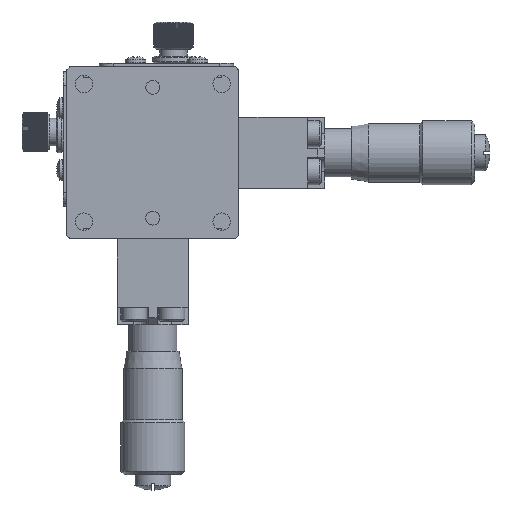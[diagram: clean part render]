
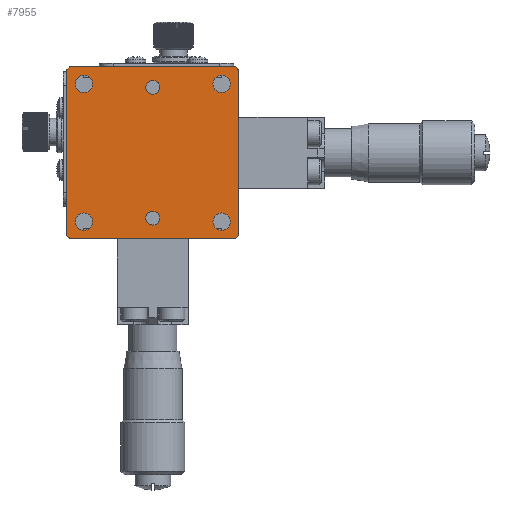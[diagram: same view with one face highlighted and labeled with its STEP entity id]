
A CAD part, front view. The second image highlights one B-rep face of the part: STEP entity #7955.
In plain terms, the highlighted planar face has unit normal (0, -1, 0).
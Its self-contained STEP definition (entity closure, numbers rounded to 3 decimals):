
#752 = CARTESIAN_POINT ( 'NONE',  ( 10., 0., -10. ) ) ;
#1480 = ORIENTED_EDGE ( 'NONE', *, *, #19515, .T. ) ;
#2593 = DIRECTION ( 'NONE',  ( 1., 0., 0. ) ) ;
#2916 = EDGE_LOOP ( 'NONE', ( #22393, #45765, #1480, #18648, #17281, #19398, #9640, #33896 ) ) ;
#3976 = EDGE_LOOP ( 'NONE', ( #9978 ) ) ;
#4055 = VECTOR ( 'NONE', #2593, 1000. ) ;
#4121 = DIRECTION ( 'NONE',  ( 0., 0., 1. ) ) ;
#4338 = FACE_BOUND ( 'NONE', #10783, .T. ) ;
#4682 = VERTEX_POINT ( 'NONE', #19232 ) ;
#5102 = VERTEX_POINT ( 'NONE', #5811 ) ;
#5128 = PLANE ( 'NONE',  #27867 ) ;
#5811 = CARTESIAN_POINT ( 'NONE',  ( -12.5, 0., -12. ) ) ;
#7185 = FACE_BOUND ( 'NONE', #3976, .T. ) ;
#7659 = VECTOR ( 'NONE', #44607, 1000. ) ;
#7887 = LINE ( 'NONE', #11539, #9005 ) ;
#7955 = ADVANCED_FACE ( 'NONE', ( #36031, #4338, #45631, #26381, #7185, #41060, #14509 ), #5128, .T. ) ;
#7972 = ORIENTED_EDGE ( 'NONE', *, *, #26111, .T. ) ;
#8428 = CARTESIAN_POINT ( 'NONE',  ( -12.5, 0., 0. ) ) ;
#8662 = VECTOR ( 'NONE', #34658, 1000. ) ;
#9005 = VECTOR ( 'NONE', #26227, 1000. ) ;
#9640 = ORIENTED_EDGE ( 'NONE', *, *, #20427, .T. ) ;
#9978 = ORIENTED_EDGE ( 'NONE', *, *, #39730, .T. ) ;
#10623 = VERTEX_POINT ( 'NONE', #22944 ) ;
#10783 = EDGE_LOOP ( 'NONE', ( #22947 ) ) ;
#10806 = DIRECTION ( 'NONE',  ( 0.707, 0., -0.707 ) ) ;
#10812 = VERTEX_POINT ( 'NONE', #31230 ) ;
#11515 = CARTESIAN_POINT ( 'NONE',  ( -9.5, 0., 0. ) ) ;
#11539 = CARTESIAN_POINT ( 'NONE',  ( 0., 0., 12.5 ) ) ;
#11676 = CARTESIAN_POINT ( 'NONE',  ( 10., 0., 10. ) ) ;
#12000 = CARTESIAN_POINT ( 'NONE',  ( 12., 0., 12.5 ) ) ;
#12182 = VERTEX_POINT ( 'NONE', #21365 ) ;
#12859 = LINE ( 'NONE', #32516, #39424 ) ;
#13338 = EDGE_LOOP ( 'NONE', ( #7972 ) ) ;
#14052 = AXIS2_PLACEMENT_3D ( 'NONE', #24466, #34794, #28111 ) ;
#14234 = CIRCLE ( 'NONE', #43837, 1.25 ) ;
#14509 = FACE_BOUND ( 'NONE', #18976, .T. ) ;
#14757 = ORIENTED_EDGE ( 'NONE', *, *, #16596, .T. ) ;
#15167 = DIRECTION ( 'NONE',  ( 0., 1., 0. ) ) ;
#15222 = EDGE_LOOP ( 'NONE', ( #40264 ) ) ;
#15279 = CIRCLE ( 'NONE', #45980, 1. ) ;
#16268 = CARTESIAN_POINT ( 'NONE',  ( 12.5, 0., 12. ) ) ;
#16469 = DIRECTION ( 'NONE',  ( 0., -1., 0. ) ) ;
#16596 = EDGE_CURVE ( 'NONE', #38077, #38077, #37858, .T. ) ;
#16713 = LINE ( 'NONE', #17756, #39362 ) ;
#16782 = AXIS2_PLACEMENT_3D ( 'NONE', #752, #15167, #22736 ) ;
#16853 = CARTESIAN_POINT ( 'NONE',  ( -10., 0., 11.25 ) ) ;
#17281 = ORIENTED_EDGE ( 'NONE', *, *, #28609, .T. ) ;
#17440 = EDGE_CURVE ( 'NONE', #46385, #12182, #32061, .T. ) ;
#17756 = CARTESIAN_POINT ( 'NONE',  ( 12.5, 0., 12. ) ) ;
#18184 = CARTESIAN_POINT ( 'NONE',  ( 12., 0., -12.5 ) ) ;
#18648 = ORIENTED_EDGE ( 'NONE', *, *, #17440, .T. ) ;
#18976 = EDGE_LOOP ( 'NONE', ( #23198 ) ) ;
#19166 = EDGE_CURVE ( 'NONE', #4682, #4682, #34156, .T. ) ;
#19232 = CARTESIAN_POINT ( 'NONE',  ( -9.5, 0., 1. ) ) ;
#19398 = ORIENTED_EDGE ( 'NONE', *, *, #30374, .T. ) ;
#19515 = EDGE_CURVE ( 'NONE', #10812, #46385, #22099, .T. ) ;
#19774 = CARTESIAN_POINT ( 'NONE',  ( 12., 0., -12.5 ) ) ;
#19814 = LINE ( 'NONE', #8428, #23756 ) ;
#20223 = EDGE_CURVE ( 'NONE', #10623, #5102, #19814, .T. ) ;
#20427 = EDGE_CURVE ( 'NONE', #44603, #23118, #7887, .T. ) ;
#20888 = EDGE_CURVE ( 'NONE', #23118, #10623, #35007, .T. ) ;
#21365 = CARTESIAN_POINT ( 'NONE',  ( 12.5, 0., -12. ) ) ;
#21538 = DIRECTION ( 'NONE',  ( -0.707, 0., 0.707 ) ) ;
#21996 = VERTEX_POINT ( 'NONE', #16268 ) ;
#22086 = DIRECTION ( 'NONE',  ( 0., 1., 0. ) ) ;
#22099 = LINE ( 'NONE', #38779, #4055 ) ;
#22292 = AXIS2_PLACEMENT_3D ( 'NONE', #11676, #33699, #40437 ) ;
#22393 = ORIENTED_EDGE ( 'NONE', *, *, #20223, .T. ) ;
#22736 = DIRECTION ( 'NONE',  ( 0., 0., 1. ) ) ;
#22944 = CARTESIAN_POINT ( 'NONE',  ( -12.5, 0., 12. ) ) ;
#22946 = EDGE_LOOP ( 'NONE', ( #14757 ) ) ;
#22947 = ORIENTED_EDGE ( 'NONE', *, *, #19166, .T. ) ;
#23118 = VERTEX_POINT ( 'NONE', #37419 ) ;
#23198 = ORIENTED_EDGE ( 'NONE', *, *, #37173, .T. ) ;
#23756 = VECTOR ( 'NONE', #26128, 1000. ) ;
#23952 = DIRECTION ( 'NONE',  ( -0.707, 0., -0.707 ) ) ;
#24466 = CARTESIAN_POINT ( 'NONE',  ( -10., 0., -10. ) ) ;
#24972 = VERTEX_POINT ( 'NONE', #30990 ) ;
#26093 = VERTEX_POINT ( 'NONE', #45314 ) ;
#26111 = EDGE_CURVE ( 'NONE', #26138, #26138, #15279, .T. ) ;
#26128 = DIRECTION ( 'NONE',  ( 0., 0., -1. ) ) ;
#26138 = VERTEX_POINT ( 'NONE', #40889 ) ;
#26227 = DIRECTION ( 'NONE',  ( -1., 0., 0. ) ) ;
#26381 = FACE_BOUND ( 'NONE', #22946, .T. ) ;
#26670 = CARTESIAN_POINT ( 'NONE',  ( 10., 0., -8.75 ) ) ;
#27231 = EDGE_CURVE ( 'NONE', #5102, #10812, #12859, .T. ) ;
#27867 = AXIS2_PLACEMENT_3D ( 'NONE', #44924, #16469, #45869 ) ;
#28111 = DIRECTION ( 'NONE',  ( 0., 0., 1. ) ) ;
#28464 = CIRCLE ( 'NONE', #22292, 1.25 ) ;
#28609 = EDGE_CURVE ( 'NONE', #12182, #21996, #30764, .T. ) ;
#29185 = CARTESIAN_POINT ( 'NONE',  ( -10., 0., 10. ) ) ;
#30374 = EDGE_CURVE ( 'NONE', #21996, #44603, #16713, .T. ) ;
#30764 = LINE ( 'NONE', #34514, #8662 ) ;
#30990 = CARTESIAN_POINT ( 'NONE',  ( -10., 0., -8.75 ) ) ;
#31230 = CARTESIAN_POINT ( 'NONE',  ( -12., 0., -12.5 ) ) ;
#32061 = LINE ( 'NONE', #19774, #7659 ) ;
#32516 = CARTESIAN_POINT ( 'NONE',  ( -12.5, 0., -12. ) ) ;
#33016 = DIRECTION ( 'NONE',  ( 0., 1., 0. ) ) ;
#33699 = DIRECTION ( 'NONE',  ( 0., 1., 0. ) ) ;
#33880 = VECTOR ( 'NONE', #23952, 1000. ) ;
#33896 = ORIENTED_EDGE ( 'NONE', *, *, #20888, .T. ) ;
#34156 = CIRCLE ( 'NONE', #37225, 1. ) ;
#34514 = CARTESIAN_POINT ( 'NONE',  ( 12.5, 0., 0. ) ) ;
#34658 = DIRECTION ( 'NONE',  ( 0., 0., 1. ) ) ;
#34794 = DIRECTION ( 'NONE',  ( 0., 1., 0. ) ) ;
#35007 = LINE ( 'NONE', #38971, #33880 ) ;
#36031 = FACE_BOUND ( 'NONE', #13338, .T. ) ;
#36749 = EDGE_CURVE ( 'NONE', #26093, #26093, #28464, .T. ) ;
#37173 = EDGE_CURVE ( 'NONE', #43072, #43072, #14234, .T. ) ;
#37225 = AXIS2_PLACEMENT_3D ( 'NONE', #11515, #22086, #4121 ) ;
#37419 = CARTESIAN_POINT ( 'NONE',  ( -12., 0., 12.5 ) ) ;
#37858 = CIRCLE ( 'NONE', #16782, 1.25 ) ;
#38077 = VERTEX_POINT ( 'NONE', #26670 ) ;
#38477 = DIRECTION ( 'NONE',  ( 0., 0., 1. ) ) ;
#38779 = CARTESIAN_POINT ( 'NONE',  ( 0., 0., -12.5 ) ) ;
#38971 = CARTESIAN_POINT ( 'NONE',  ( -12., 0., 12.5 ) ) ;
#39362 = VECTOR ( 'NONE', #21538, 1000. ) ;
#39424 = VECTOR ( 'NONE', #10806, 1000. ) ;
#39730 = EDGE_CURVE ( 'NONE', #24972, #24972, #44275, .T. ) ;
#40264 = ORIENTED_EDGE ( 'NONE', *, *, #36749, .T. ) ;
#40437 = DIRECTION ( 'NONE',  ( 0., 0., 1. ) ) ;
#40889 = CARTESIAN_POINT ( 'NONE',  ( 9.5, 0., 1. ) ) ;
#41060 = FACE_OUTER_BOUND ( 'NONE', #2916, .T. ) ;
#42232 = DIRECTION ( 'NONE',  ( 0., 1., 0. ) ) ;
#42706 = CARTESIAN_POINT ( 'NONE',  ( 9.5, 0., 0. ) ) ;
#43072 = VERTEX_POINT ( 'NONE', #16853 ) ;
#43837 = AXIS2_PLACEMENT_3D ( 'NONE', #29185, #33016, #44034 ) ;
#44034 = DIRECTION ( 'NONE',  ( 0., 0., 1. ) ) ;
#44275 = CIRCLE ( 'NONE', #14052, 1.25 ) ;
#44603 = VERTEX_POINT ( 'NONE', #12000 ) ;
#44607 = DIRECTION ( 'NONE',  ( 0.707, 0., 0.707 ) ) ;
#44924 = CARTESIAN_POINT ( 'NONE',  ( 0., 0., 0. ) ) ;
#45314 = CARTESIAN_POINT ( 'NONE',  ( 10., 0., 11.25 ) ) ;
#45631 = FACE_BOUND ( 'NONE', #15222, .T. ) ;
#45765 = ORIENTED_EDGE ( 'NONE', *, *, #27231, .T. ) ;
#45869 = DIRECTION ( 'NONE',  ( 0., 0., -1. ) ) ;
#45980 = AXIS2_PLACEMENT_3D ( 'NONE', #42706, #42232, #38477 ) ;
#46385 = VERTEX_POINT ( 'NONE', #18184 ) ;
